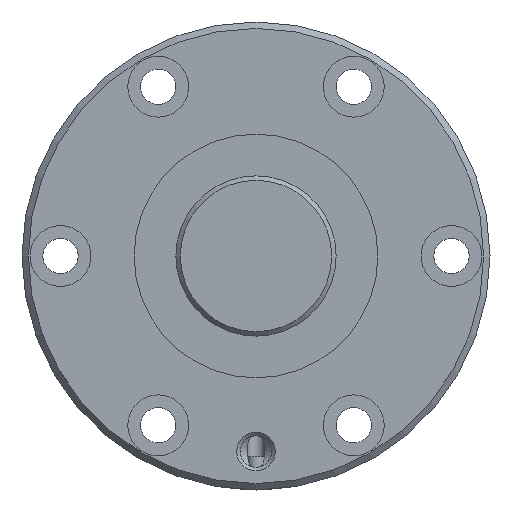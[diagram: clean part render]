
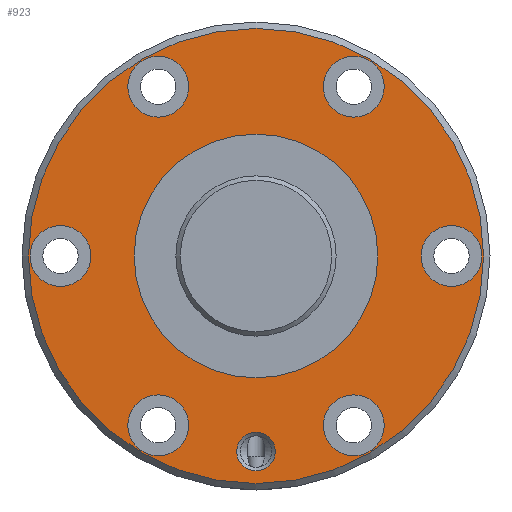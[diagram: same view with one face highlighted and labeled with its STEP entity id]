
A CAD part, left-side view. The second image highlights one B-rep face of the part: STEP entity #923.
In plain terms, the highlighted planar face has unit normal (-1, 0, 0).
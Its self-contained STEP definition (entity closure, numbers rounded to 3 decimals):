
#154=ORIENTED_EDGE('',*,*,#357,.T.);
#155=ORIENTED_EDGE('',*,*,#358,.T.);
#156=ORIENTED_EDGE('',*,*,#359,.T.);
#157=ORIENTED_EDGE('',*,*,#360,.T.);
#158=ORIENTED_EDGE('',*,*,#361,.T.);
#159=ORIENTED_EDGE('',*,*,#362,.T.);
#160=ORIENTED_EDGE('',*,*,#363,.T.);
#161=ORIENTED_EDGE('',*,*,#364,.T.);
#162=ORIENTED_EDGE('',*,*,#356,.F.);
#356=EDGE_CURVE('',#461,#461,#545,.T.);
#357=EDGE_CURVE('',#462,#462,#546,.T.);
#358=EDGE_CURVE('',#463,#463,#547,.F.);
#359=EDGE_CURVE('',#464,#464,#548,.T.);
#360=EDGE_CURVE('',#465,#465,#549,.T.);
#361=EDGE_CURVE('',#466,#466,#550,.T.);
#362=EDGE_CURVE('',#467,#467,#551,.T.);
#363=EDGE_CURVE('',#468,#468,#552,.T.);
#364=EDGE_CURVE('',#469,#469,#553,.T.);
#461=VERTEX_POINT('',#1548);
#462=VERTEX_POINT('',#1551);
#463=VERTEX_POINT('',#1553);
#464=VERTEX_POINT('',#1555);
#465=VERTEX_POINT('',#1557);
#466=VERTEX_POINT('',#1559);
#467=VERTEX_POINT('',#1561);
#468=VERTEX_POINT('',#1563);
#469=VERTEX_POINT('',#1565);
#545=CIRCLE('',#1030,35.5);
#546=CIRCLE('',#1032,19.);
#547=CIRCLE('',#1033,4.75);
#548=CIRCLE('',#1034,3.);
#549=CIRCLE('',#1035,4.75);
#550=CIRCLE('',#1036,4.75);
#551=CIRCLE('',#1037,4.75);
#552=CIRCLE('',#1038,4.75);
#553=CIRCLE('',#1039,4.75);
#626=EDGE_LOOP('',(#154));
#627=EDGE_LOOP('',(#155));
#628=EDGE_LOOP('',(#156));
#629=EDGE_LOOP('',(#157));
#630=EDGE_LOOP('',(#158));
#631=EDGE_LOOP('',(#159));
#632=EDGE_LOOP('',(#160));
#633=EDGE_LOOP('',(#161));
#634=EDGE_LOOP('',(#162));
#766=FACE_BOUND('',#626,.T.);
#767=FACE_BOUND('',#627,.T.);
#768=FACE_BOUND('',#628,.T.);
#769=FACE_BOUND('',#629,.T.);
#770=FACE_BOUND('',#630,.T.);
#771=FACE_BOUND('',#631,.T.);
#772=FACE_BOUND('',#632,.T.);
#773=FACE_BOUND('',#633,.T.);
#774=FACE_BOUND('',#634,.T.);
#888=PLANE('',#1031);
#923=ADVANCED_FACE('',(#766,#767,#768,#769,#770,#771,#772,#773,#774),#888,
 .T.);
#1030=AXIS2_PLACEMENT_3D('',#1547,#1198,#1199);
#1031=AXIS2_PLACEMENT_3D('',#1549,#1200,#1201);
#1032=AXIS2_PLACEMENT_3D('',#1550,#1202,#1203);
#1033=AXIS2_PLACEMENT_3D('',#1552,#1204,#1205);
#1034=AXIS2_PLACEMENT_3D('',#1554,#1206,#1207);
#1035=AXIS2_PLACEMENT_3D('',#1556,#1208,#1209);
#1036=AXIS2_PLACEMENT_3D('',#1558,#1210,#1211);
#1037=AXIS2_PLACEMENT_3D('',#1560,#1212,#1213);
#1038=AXIS2_PLACEMENT_3D('',#1562,#1214,#1215);
#1039=AXIS2_PLACEMENT_3D('',#1564,#1216,#1217);
#1198=DIRECTION('',(1.,0.,0.));
#1199=DIRECTION('',(0.,0.,-1.));
#1200=DIRECTION('',(-1.,0.,0.));
#1201=DIRECTION('',(0.,0.,1.));
#1202=DIRECTION('',(1.,0.,0.));
#1203=DIRECTION('',(0.,0.,-1.));
#1204=DIRECTION('',(-1.,0.,0.));
#1205=DIRECTION('',(0.,0.,1.));
#1206=DIRECTION('',(1.,0.,0.));
#1207=DIRECTION('',(0.,0.,-1.));
#1208=DIRECTION('',(1.,0.,0.));
#1209=DIRECTION('',(0.,0.,-1.));
#1210=DIRECTION('',(1.,0.,0.));
#1211=DIRECTION('',(0.,0.,-1.));
#1212=DIRECTION('',(1.,0.,0.));
#1213=DIRECTION('',(0.,0.,-1.));
#1214=DIRECTION('',(1.,0.,0.));
#1215=DIRECTION('',(0.,0.,-1.));
#1216=DIRECTION('',(1.,0.,0.));
#1217=DIRECTION('',(0.,0.,-1.));
#1547=CARTESIAN_POINT('',(0.,0.,0.));
#1548=CARTESIAN_POINT('',(0.,0.,-35.5));
#1549=CARTESIAN_POINT('',(0.,35.5,0.));
#1550=CARTESIAN_POINT('',(0.,0.,0.));
#1551=CARTESIAN_POINT('',(0.,0.,-19.));
#1552=CARTESIAN_POINT('',(0.,30.5,0.));
#1553=CARTESIAN_POINT('',(0.,30.5,4.75));
#1554=CARTESIAN_POINT('',(0.,0.,-30.5));
#1555=CARTESIAN_POINT('',(0.,0.,-33.5));
#1556=CARTESIAN_POINT('',(0.,-30.5,0.));
#1557=CARTESIAN_POINT('',(0.,-30.5,-4.75));
#1558=CARTESIAN_POINT('',(0.,15.25,26.414));
#1559=CARTESIAN_POINT('',(0.,15.25,21.664));
#1560=CARTESIAN_POINT('',(0.,-15.25,-26.414));
#1561=CARTESIAN_POINT('',(0.,-15.25,-31.164));
#1562=CARTESIAN_POINT('',(0.,-15.25,26.414));
#1563=CARTESIAN_POINT('',(0.,-15.25,21.664));
#1564=CARTESIAN_POINT('',(0.,15.25,-26.414));
#1565=CARTESIAN_POINT('',(0.,15.25,-31.164));
